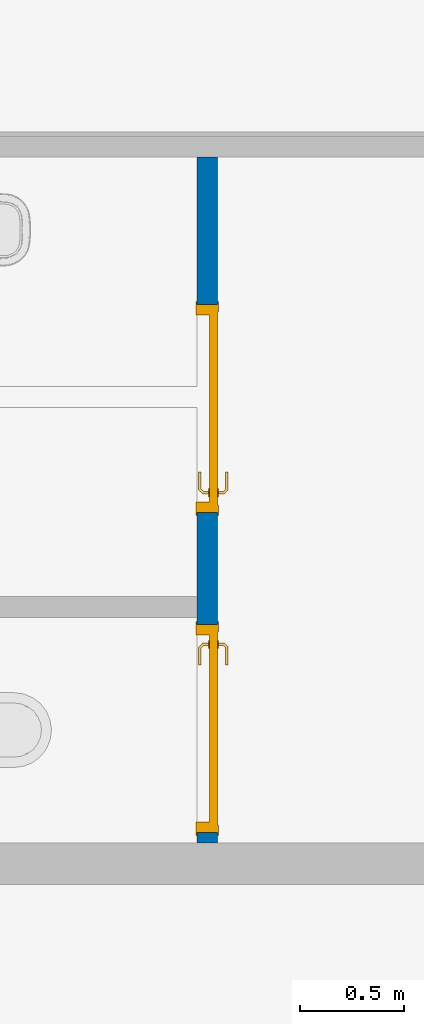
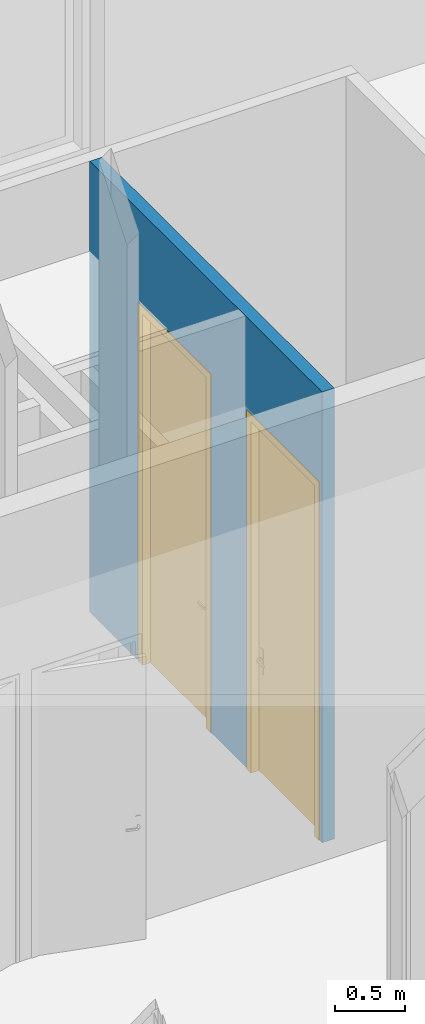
# One storey, part 170 of 240: 2 doors, 1 wall, 2 openings.
"""IFC2X3 building model written with IfcOpenShell, lengths in centimetres."""

from ifc_helpers import new_model, entity, si_unit, converted_unit, derived_unit, direction, frame, frame_2d, origin, place, context, subcontext, project, spatial, polyline, rectangle, extrude, clip, bounded_halfspace, faceted_brep, source, transform, mapped, material, material_list, layer, layer_set, layer_usage, type_object, type_shapes, element, fill, save


model = new_model("IFC2X3")

# Units and contexts
model_context = context("Model", 3, precision=0.001, world=origin(), true_north=direction((6.12303176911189e-17, 1.0)))
body_context = subcontext(model_context, "Body", "Model", "MODEL_VIEW")
ifc_project = project(units=[si_unit("LENGTHUNIT", "METRE", prefix="CENTI"), si_unit("AREAUNIT", "SQUARE_METRE"), si_unit("VOLUMEUNIT", "CUBIC_METRE"), converted_unit("PLANEANGLEUNIT", "DEGREE", entity("IfcRatioMeasure", 0.0174532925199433), si_unit("PLANEANGLEUNIT", "RADIAN"), dimensions=[0, 0, 0, 0, 0, 0, 0]), si_unit("MASSUNIT", "GRAM", prefix="KILO"), derived_unit("MASSDENSITYUNIT", [(si_unit("MASSUNIT", "GRAM", prefix="KILO"), 1), (si_unit("LENGTHUNIT", "METRE"), -3)]), si_unit("TIMEUNIT", "SECOND"), si_unit("FREQUENCYUNIT", "HERTZ"), si_unit("THERMODYNAMICTEMPERATUREUNIT", "DEGREE_CELSIUS"), derived_unit("THERMALTRANSMITTANCEUNIT", [(si_unit("MASSUNIT", "GRAM", prefix="KILO"), 1), (si_unit("THERMODYNAMICTEMPERATUREUNIT", "KELVIN"), -1), (si_unit("TIMEUNIT", "SECOND"), -3)]), derived_unit("VOLUMETRICFLOWRATEUNIT", [(si_unit("LENGTHUNIT", "METRE"), 3), (si_unit("TIMEUNIT", "SECOND"), -1)]), si_unit("ELECTRICCURRENTUNIT", "AMPERE"), si_unit("ELECTRICVOLTAGEUNIT", "VOLT"), si_unit("POWERUNIT", "WATT"), si_unit("FORCEUNIT", "NEWTON", prefix="KILO"), si_unit("ILLUMINANCEUNIT", "LUX"), si_unit("LUMINOUSFLUXUNIT", "LUMEN"), si_unit("LUMINOUSINTENSITYUNIT", "CANDELA"), derived_unit("USERDEFINED", [(si_unit("MASSUNIT", "GRAM", prefix="KILO"), -1), (si_unit("LENGTHUNIT", "METRE"), -2), (si_unit("TIMEUNIT", "SECOND"), 3), (si_unit("LUMINOUSFLUXUNIT", "LUMEN"), 1)]), derived_unit("LINEARVELOCITYUNIT", [(si_unit("LENGTHUNIT", "METRE"), 1), (si_unit("TIMEUNIT", "SECOND"), -1)]), si_unit("PRESSUREUNIT", "PASCAL"), derived_unit("USERDEFINED", [(si_unit("LENGTHUNIT", "METRE"), -2), (si_unit("MASSUNIT", "GRAM", prefix="KILO"), 1), (si_unit("TIMEUNIT", "SECOND"), -2)])], contexts=[model_context])

# Site, building, storey
site_placement = place(None, frame((-2781.94577612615, 7442.24238424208, 0.0)))
site = spatial("IfcSite", under=ifc_project, at=site_placement, Name="Default", CompositionType="ELEMENT")
building_placement = place(site_placement, origin())
building = spatial("IfcBuilding", under=site, at=building_placement, CompositionType="ELEMENT")
storey_placement = place(building_placement, origin())
storey = spatial("IfcBuildingStorey", under=building, at=storey_placement, Name="N00 - COO", CompositionType="ELEMENT", Elevation=0.0)

# Wall, openings, doors
ifc_material_1 = material(Name="01 - Enduit/Plâtre")
ifc_layer_1 = layer(ifc_material_1, 1.3)
ifc_material_2 = material(Name="00 - Isolant")
ifc_layer_2 = layer(ifc_material_2, 7.4)
ifc_layer_3 = layer(ifc_material_1, 1.3)
ifc_layer_set = layer_set([ifc_layer_1, ifc_layer_2, ifc_layer_3], Name="Mur de base:06 - cloisons - Ba13 10cm")
ifc_layer_usage = layer_usage(ifc_layer_set, "AXIS2", "POSITIVE", -5.0)
wall_type = type_object("IfcWallType", Name="Mur de base:06 - cloisons - Ba13 10cm", PredefinedType="STANDARD", material=ifc_layer_set)
wall_placement = place(storey_placement, frame((-1804.49988284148, -1580.0, 0.0), z_axis=(0.0, 0.0, 1.0), x_axis=(0.0, -1.0, 0.0)))
wall = element("IfcWallStandardCase", 1, at=wall_placement, inside=storey, type_object=wall_type, material=ifc_layer_usage, Name="Mur de base:06 - cloisons - Ba13 10cm", ObjectType="Mur de base:06 - cloisons - Ba13 10cm", context=body_context, shape_type="Clipping", body=[
    clip(extrude(rectangle(XDim=330.079033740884, YDim=9.99999999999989, at=frame_2d((165.039516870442, -2.57571741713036e-14), x_axis=(-1.0, 0.0))), origin(), (0.0, 0.0, 1.0), 391.0), bounded_halfspace(frame((0.0, -5.0, 391.0), z_axis=(0.0, 0.0, -1.0), x_axis=(-1.0, 0.0, 0.0)), True, frame((0.0, -5.0, 391.0)), polyline([(0.0, 0.0), (211.5, 0.0), (221.5, 0.0), (330.079033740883, 0.0), (330.079033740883, 10.0), (0.0, 10.0), (0.0, 0.0)]))),
])
opening_1_placement = place(wall_placement, frame((225.079033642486, -5.0, 0.0)))
opening_1 = element("IfcOpeningElement", 2, at=opening_1_placement, cuts=wall, Name="Int. Simple:PP (0.93m x 3.06m):1", ObjectType="Opening", context=body_context, shape_type="SweptSolid", body=[
    extrude(rectangle(XDim=309.500000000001, YDim=99.9999999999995, at=frame_2d((154.750000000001, 49.9999999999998), x_axis=(1.0, 0.0))), frame((0.0, 0.0, 0.0), z_axis=(0.0, 1.0, 0.0), x_axis=(0.0, 0.0, 1.0)), (0.0, 0.0, 1.0), 10.0),
])
opening_2_placement = place(wall_placement, frame((71.0, -5.0, 0.0)))
opening_2 = element("IfcOpeningElement", 3, at=opening_2_placement, cuts=wall, Name="Int. Simple:PP (0.93m x 3.06m):1", ObjectType="Opening", context=body_context, shape_type="SweptSolid", body=[
    extrude(rectangle(XDim=309.500000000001, YDim=99.9999999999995, at=frame_2d((154.750000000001, 49.9999999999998), x_axis=(1.0, 0.0))), frame((0.0, 0.0, 0.0), z_axis=(0.0, 1.0, 0.0), x_axis=(0.0, 0.0, 1.0)), (0.0, 0.0, 1.0), 10.0),
])
ifc_material_3 = material(Name="Finition Peinture - Blanc satiné")
ifc_material_4 = material(Name="Bois - Panneau de porte")
ifc_material_5 = material(Name="Bois - Cadre de porte")
ifc_material_list_1 = material_list([ifc_material_3, ifc_material_4, ifc_material_5])
ifc_material_list_2 = material_list([ifc_material_3, ifc_material_4, ifc_material_5])
door_style_1 = type_object("IfcDoorStyle", Name="PP (0.93m x 3.06m)", ConstructionType="NOTDEFINED", OperationType="SINGLE_SWING_LEFT", ParameterTakesPrecedence=False, Sizeable=False, material=ifc_material_list_2)
shared_shape_1 = source(origin(), body_context, "Body", "Brep", [
    faceted_brep([(10.5352761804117, -0.500000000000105, 86.6003983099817), (11.5000000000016, -0.500000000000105, 87.0), (11.5000000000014, -0.500000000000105, 108.0), (10.5352761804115, -0.500000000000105, 108.399601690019), (9.50000000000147, -0.500000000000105, 108.535898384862), (8.46472381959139, -0.500000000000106, 108.399601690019), (7.50000000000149, -0.500000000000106, 108.0), (7.50000000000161, -0.500000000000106, 87.0), (8.46472381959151, -0.500000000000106, 86.6003983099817), (9.50000000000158, -0.500000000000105, 86.464101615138), (10.5352761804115, 0.0, 108.399601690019), (11.5000000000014, 0.0, 108.0), (11.5000000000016, 0.0, 87.0), (10.5352761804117, 0.0, 86.6003983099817), (9.50000000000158, 0.0, 86.464101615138), (8.46472381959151, 0.0, 86.6003983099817), (7.50000000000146, 0.0, 87.0), (7.50000000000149, 0.0, 108.0), (8.46472381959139, 0.0, 108.399601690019), (9.50000000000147, 0.0, 108.535898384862)], [[[0, 1, 2, 3, 4, 5, 6, 7, 8, 9]], [[10, 11, 12, 13, 14, 15, 16, 17, 18, 19]], [[16, 15, 8, 7]], [[8, 15, 14, 9]], [[14, 13, 0, 9]], [[13, 12, 1, 0]], [[2, 1, 12, 11]], [[11, 10, 3, 2]], [[3, 10, 19, 4]], [[19, 18, 5, 4]], [[18, 17, 6, 5]], [[7, 6, 17, 16]]]),
    faceted_brep([(10.5352761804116, 4.0, 86.6003983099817), (11.5000000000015, 4.0, 87.0), (11.5000000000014, 4.0, 108.0), (10.5352761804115, 4.0, 108.399601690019), (9.50000000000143, 4.0, 108.535898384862), (8.46472381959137, 4.0, 108.399601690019), (7.50000000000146, 4.0, 108.0), (7.50000000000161, 4.0, 87.0), (8.46472381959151, 4.0, 86.6003983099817), (9.50000000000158, 4.0, 86.464101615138), (10.5352761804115, 4.49999999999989, 108.399601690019), (11.5000000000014, 4.49999999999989, 108.0), (11.5000000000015, 4.49999999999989, 87.0), (10.5352761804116, 4.49999999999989, 86.6003983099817), (9.50000000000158, 4.49999999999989, 86.464101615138), (8.46472381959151, 4.49999999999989, 86.6003983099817), (7.50000000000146, 4.49999999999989, 87.0), (7.50000000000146, 4.49999999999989, 108.0), (8.46472381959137, 4.49999999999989, 108.399601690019), (9.50000000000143, 4.49999999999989, 108.535898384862)], [[[0, 1, 2, 3, 4, 5, 6, 7, 8, 9]], [[10, 11, 12, 13, 14, 15, 16, 17, 18, 19]], [[11, 10, 3, 2]], [[3, 10, 19, 4]], [[19, 18, 5, 4]], [[18, 17, 6, 5]], [[7, 6, 17, 16]], [[16, 15, 8, 7]], [[8, 15, 14, 9]], [[14, 13, 0, 9]], [[13, 12, 1, 0]], [[2, 1, 12, 11]]]),
    faceted_brep([(9.29747013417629, -0.500000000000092, 100.778044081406), (9.70252986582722, -0.50000000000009, 100.778044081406), (10.1000000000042, -0.500000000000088, 100.699999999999), (10.1000000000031, -0.500000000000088, 99.3000000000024), (9.7025298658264, -0.50000000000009, 99.2219559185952), (9.29747013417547, -0.500000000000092, 99.221955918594), (8.8999999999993, -0.500000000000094, 99.2999999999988), (8.89999999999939, -0.500000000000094, 100.7), (8.89999999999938, -3.26509507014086, 100.7), (9.29747013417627, -3.10045754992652, 100.778044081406), (10.9023585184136, -4.70534593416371, 100.778044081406), (11.0701397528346, -4.30028620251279, 100.778044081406), (9.7025298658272, -2.93267631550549, 100.778044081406), (10.1000000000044, -2.76803879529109, 100.7), (10.1000000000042, -2.76803879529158, 99.3000000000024), (9.7025298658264, -2.93267631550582, 99.2219559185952), (11.0701397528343, -4.30028620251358, 99.2219559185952), (10.9023585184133, -4.70534593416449, 99.221955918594), (9.29747013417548, -3.10045754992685, 99.221955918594), (8.89999999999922, -3.26509507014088, 99.2999999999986), (10.7377209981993, -5.10281606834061, 100.7), (11.2347772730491, -3.90281606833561, 100.7), (11.2347772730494, -3.90281606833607, 99.3000000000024), (10.7377209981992, -5.10281606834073, 99.2999999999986), (19.5018640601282, -5.10281606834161, 99.2999999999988), (19.5018640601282, -4.70534593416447, 99.221955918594), (19.5018640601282, -4.30028620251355, 99.2219559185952), (19.5018640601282, -3.9028160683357, 99.3000000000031), (19.5018640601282, -3.90281606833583, 100.7), (19.5018640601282, -4.30028620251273, 100.778044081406), (19.5018640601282, -4.70534593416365, 100.778044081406), (19.5018640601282, -5.10281606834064, 100.699999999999), (14.7307697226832, -5.10281606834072, 100.7), (15.2860019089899, -4.5028160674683, 100.78786867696), (15.3683206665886, -3.9028160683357, 100.7), (15.3683206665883, -3.9028160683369, 99.3000000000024), (15.2860018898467, -4.50281607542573, 99.2121313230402), (14.7307700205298, -5.10281606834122, 99.2999999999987)], [[[0, 1, 2, 3, 4, 5, 6, 7]], [[8, 9, 0, 7]], [[9, 10, 11, 12, 1, 0]], [[12, 13, 2, 1]], [[3, 2, 13, 14]], [[14, 15, 4, 3]], [[15, 16, 17, 18, 5, 4]], [[18, 19, 6, 5]], [[7, 6, 19, 8]], [[20, 10, 9, 8]], [[11, 21, 13, 12]], [[14, 13, 21, 22]], [[22, 16, 15, 14]], [[17, 23, 19, 18]], [[8, 19, 23, 20]], [[24, 25, 26, 27, 28, 29, 30, 31]], [[32, 30, 33]], [[31, 30, 32]], [[10, 20, 32]], [[33, 34, 11]], [[21, 11, 34]], [[34, 29, 28]], [[30, 29, 33]], [[29, 34, 33]], [[10, 32, 33]], [[10, 33, 11]], [[22, 21, 34, 28, 27, 35]], [[35, 26, 36]], [[37, 36, 25]], [[22, 35, 16]], [[35, 27, 26]], [[24, 37, 25]], [[23, 17, 37]], [[37, 17, 36]], [[17, 16, 36]], [[16, 35, 36]], [[25, 36, 26]], [[20, 23, 37, 24, 31, 32]]]),
    faceted_brep([(9.29747013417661, 4.49999999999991, 100.778044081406), (8.89999999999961, 4.4999999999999, 100.7), (8.89999999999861, 4.4999999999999, 99.2999999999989), (9.29747013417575, 4.49999999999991, 99.221955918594), (9.70252986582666, 4.49999999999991, 99.2219559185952), (10.1000000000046, 4.49999999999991, 99.3000000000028), (10.1000000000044, 4.49999999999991, 100.7), (9.70252986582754, 4.49999999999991, 100.778044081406), (10.1000000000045, 6.7485204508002, 99.3000000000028), (10.1000000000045, 6.74852045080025, 100.7), (9.70252986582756, 6.91315797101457, 100.778044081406), (11.083890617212, 8.29451872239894, 100.778044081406), (10.916109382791, 8.69957845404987, 100.778044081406), (9.29747013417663, 7.0809392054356, 100.778044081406), (8.89999999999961, 7.24557672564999, 100.7), (8.89999999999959, 7.2455767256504, 99.2999999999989), (9.29747013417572, 7.08093920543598, 99.221955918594), (10.9161093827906, 8.69957845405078, 99.221955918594), (11.0838906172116, 8.29451872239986, 99.2219559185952), (9.70252986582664, 6.91315797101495, 99.2219559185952), (11.2485281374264, 7.89704858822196, 99.3000000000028), (11.2485281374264, 7.89704858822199, 100.7), (10.7514718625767, 9.09704858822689, 100.7), (10.7514718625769, 9.0970485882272, 99.2999999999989), (19.5045783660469, 7.89704858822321, 99.3000000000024), (19.5045783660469, 8.29451872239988, 99.2219559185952), (19.5045783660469, 8.6995784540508, 99.221955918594), (19.5045783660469, 9.09704858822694, 99.2999999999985), (19.5045783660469, 9.09704858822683, 100.7), (19.5045783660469, 8.69957845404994, 100.778044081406), (19.5045783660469, 8.29451872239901, 100.778044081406), (19.5045783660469, 7.89704858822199, 100.7), (15.3765520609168, 7.89704858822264, 99.3000000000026), (15.3765532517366, 7.89704858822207, 100.7), (15.294234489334, 8.49704858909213, 100.78786867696), (14.7445205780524, 9.09704858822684, 100.7), (14.7445204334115, 9.09704858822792, 99.2999999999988), (15.2942345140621, 8.49704858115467, 99.2121313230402)], [[[0, 1, 2, 3, 4, 5, 6, 7]], [[6, 5, 8, 9]], [[9, 10, 7, 6]], [[10, 11, 12, 13, 0, 7]], [[13, 14, 1, 0]], [[2, 1, 14, 15]], [[15, 16, 3, 2]], [[16, 17, 18, 19, 4, 3]], [[19, 8, 5, 4]], [[9, 8, 20, 21]], [[21, 11, 10, 9]], [[12, 22, 14, 13]], [[15, 14, 22, 23]], [[23, 17, 16, 15]], [[18, 20, 8, 19]], [[24, 25, 26, 27, 28, 29, 30, 31]], [[21, 20, 32, 24, 31, 33]], [[33, 30, 34]], [[35, 34, 29]], [[21, 33, 11]], [[33, 31, 30]], [[28, 35, 29]], [[22, 12, 35]], [[35, 12, 34]], [[12, 11, 34]], [[11, 33, 34]], [[29, 34, 30]], [[22, 35, 28, 27, 36, 23]], [[36, 26, 37]], [[27, 26, 36]], [[17, 23, 36]], [[37, 32, 18]], [[20, 18, 32]], [[32, 25, 24]], [[26, 25, 37]], [[25, 32, 37]], [[17, 36, 37]], [[17, 37, 18]]]),
    faceted_brep([(3.50000000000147, 4.0, 306.0), (96.5000000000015, 4.0, 306.0), (96.5000000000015, 4.0, 0.0), (3.50000000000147, 4.0, 0.0), (3.50000000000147, 0.0, 306.0), (3.50000000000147, 0.0, 0.0), (96.5000000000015, 0.0, 0.0), (96.5000000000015, 0.0, 306.0)], [[[0, 1, 2, 3]], [[4, 5, 6, 7]], [[1, 0, 4, 7]], [[2, 1, 7, 6]], [[3, 2, 6, 5]], [[0, 3, 5, 4]]]),
    faceted_brep([(0.0, 10.0, 0.0), (-1.50000000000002, 10.0, 0.0), (-1.50000000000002, 10.5000000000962, 0.0), (5.0, 10.5000000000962, 0.0), (5.0, 4.0, 0.0), (3.50000000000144, 4.0, 0.0), (3.50000000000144, -0.500000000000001, 0.0), (-1.50000000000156, -0.500000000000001, 0.0), (-1.50000000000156, 0.0, 0.0), (0.0, 0.0, 0.0), (0.0, 10.0, 309.500000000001), (100.0, 10.0, 309.500000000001), (100.0, 10.0, 0.0), (101.5, 10.0, 0.0), (101.5, 10.0, 311.0), (-1.50000000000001, 10.0, 311.0), (-1.50000000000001, 10.5000000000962, 311.0), (101.5, 10.5000000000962, 311.0), (101.5, 10.5000000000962, 0.0), (95.0, 10.5000000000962, 0.0), (95.0, 10.5000000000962, 304.5), (5.0, 10.5000000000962, 304.5), (5.0, 4.0, 304.5), (95.0, 4.0, 304.5), (95.0, 4.0, 0.0), (96.4999999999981, 4.0, 0.0), (96.4999999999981, 4.0, 306.0), (3.50000000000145, 4.0, 306.0), (3.50000000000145, -0.500000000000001, 306.0), (96.4999999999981, -0.500000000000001, 306.0), (96.4999999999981, -0.500000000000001, 0.0), (101.500000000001, -0.500000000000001, 0.0), (101.500000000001, -0.500000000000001, 311.0), (-1.50000000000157, -0.500000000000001, 311.0), (-1.50000000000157, 0.0, 311.0), (101.500000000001, 0.0, 311.0), (101.500000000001, 0.0, 0.0), (100.0, 0.0, 0.0), (100.0, 0.0, 309.500000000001), (0.0, 0.0, 309.500000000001)], [[[0, 1, 2, 3, 4, 5, 6, 7, 8, 9]], [[1, 0, 10, 11, 12, 13, 14, 15]], [[2, 1, 15, 16]], [[3, 2, 16, 17, 18, 19, 20, 21]], [[3, 21, 22, 4]], [[5, 4, 22, 23, 24, 25, 26, 27]], [[5, 27, 28, 6]], [[7, 6, 28, 29, 30, 31, 32, 33]], [[8, 7, 33, 34]], [[9, 8, 34, 35, 36, 37, 38, 39]], [[0, 9, 39, 10]], [[11, 38, 37, 12]], [[12, 37, 36, 31, 30, 25, 24, 19, 18, 13]], [[17, 14, 13, 18]], [[23, 20, 19, 24]], [[29, 26, 25, 30]], [[35, 32, 31, 36]], [[16, 15, 14, 17]], [[22, 21, 20, 23]], [[28, 27, 26, 29]], [[34, 33, 32, 35]], [[10, 39, 38, 11]]]),
])
type_shapes(door_style_1, [shared_shape_1])
door_1_placement = place(opening_2_placement, frame((100.0, 10.0, 0.0), z_axis=(0.0, 0.0, 1.0), x_axis=(-1.0, 0.0, 0.0)))
door_1 = element("IfcDoor", 4, at=door_1_placement, inside=storey, type_object=door_style_1, material=ifc_material_list_1, Name="Int. Simple:PP (0.93m x 3.06m)", ObjectType="Int. Simple:PP (0.93m x 3.06m)", OverallHeight=309.500000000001, OverallWidth=99.9999999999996, context=body_context, shape_type="MappedRepresentation", body=[
    mapped(shared_shape_1, transform((0.0, 0.0, 0.0), scale=1.0)),
])
fill(opening_2, door_1)
ifc_material_list_3 = material_list([ifc_material_3, ifc_material_4, ifc_material_5])
ifc_material_list_4 = material_list([ifc_material_3, ifc_material_4, ifc_material_5])
door_style_2 = type_object("IfcDoorStyle", Name="PP (0.93m x 3.06m)", ConstructionType="NOTDEFINED", OperationType="SINGLE_SWING_RIGHT", ParameterTakesPrecedence=False, Sizeable=False, material=ifc_material_list_4)
shared_shape_2 = source(origin(), body_context, "Body", "Brep", [
    faceted_brep([(99.5000000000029, -0.500000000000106, 87.0), (99.5000000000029, -0.500000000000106, 108.0), (98.535276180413, -0.500000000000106, 108.399601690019), (97.5000000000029, -0.500000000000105, 108.535898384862), (96.4647238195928, -0.500000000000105, 108.399601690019), (95.500000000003, -0.500000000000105, 108.0), (95.5000000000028, -0.500000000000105, 87.0), (96.4647238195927, -0.500000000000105, 86.6003983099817), (97.5000000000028, -0.500000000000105, 86.464101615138), (98.5352761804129, -0.500000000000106, 86.6003983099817), (99.5000000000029, 0.0, 108.0), (99.5000000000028, 0.0, 87.0), (98.5352761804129, 0.0, 86.6003983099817), (97.5000000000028, 0.0, 86.464101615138), (96.4647238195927, 0.0, 86.6003983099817), (95.5000000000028, 0.0, 87.0), (95.5000000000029, 0.0, 108.0), (96.4647238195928, 0.0, 108.399601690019), (97.5000000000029, 0.0, 108.535898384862), (98.535276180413, 0.0, 108.399601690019)], [[[0, 1, 2, 3, 4, 5, 6, 7, 8, 9]], [[10, 11, 12, 13, 14, 15, 16, 17, 18, 19]], [[9, 12, 11, 0]], [[8, 13, 12, 9]], [[7, 14, 13, 8]], [[7, 6, 15, 14]], [[15, 6, 5, 16]], [[4, 17, 16, 5]], [[3, 18, 17, 4]], [[2, 19, 18, 3]], [[2, 1, 10, 19]], [[11, 10, 1, 0]]]),
    faceted_brep([(99.5000000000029, 4.0, 87.0), (99.5000000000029, 4.0, 108.0), (98.535276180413, 4.0, 108.399601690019), (97.5000000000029, 4.0, 108.535898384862), (96.4647238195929, 4.0, 108.399601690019), (95.500000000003, 4.0, 108.0), (95.5000000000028, 4.0, 87.0), (96.4647238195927, 4.0, 86.6003983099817), (97.5000000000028, 4.0, 86.464101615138), (98.5352761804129, 4.0, 86.6003983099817), (97.5000000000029, 4.49999999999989, 108.535898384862), (98.535276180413, 4.49999999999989, 108.399601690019), (99.5000000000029, 4.49999999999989, 108.0), (99.5000000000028, 4.49999999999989, 87.0), (98.5352761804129, 4.49999999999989, 86.6003983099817), (97.5000000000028, 4.49999999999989, 86.464101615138), (96.4647238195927, 4.49999999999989, 86.6003983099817), (95.5000000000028, 4.49999999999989, 87.0), (95.500000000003, 4.49999999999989, 108.0), (96.4647238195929, 4.49999999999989, 108.399601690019)], [[[0, 1, 2, 3, 4, 5, 6, 7, 8, 9]], [[10, 11, 12, 13, 14, 15, 16, 17, 18, 19]], [[4, 19, 18, 5]], [[3, 10, 19, 4]], [[2, 11, 10, 3]], [[2, 1, 12, 11]], [[13, 12, 1, 0]], [[9, 14, 13, 0]], [[8, 15, 14, 9]], [[7, 16, 15, 8]], [[7, 6, 17, 16]], [[17, 6, 5, 18]]]),
    faceted_brep([(97.2974701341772, -0.50000000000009, 100.778044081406), (97.7025298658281, -0.500000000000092, 100.778044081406), (98.1000000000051, -0.500000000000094, 100.699999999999), (98.100000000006, -0.500000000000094, 99.2999999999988), (97.7025298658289, -0.500000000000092, 99.221955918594), (97.297470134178, -0.50000000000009, 99.2219559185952), (96.9000000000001, -0.500000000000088, 99.3000000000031), (96.9000000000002, -0.500000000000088, 100.7), (97.7025298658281, -3.10045754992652, 100.778044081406), (98.1000000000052, -3.26509507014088, 100.7), (97.2974701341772, -2.93267631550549, 100.778044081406), (95.9298602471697, -4.30028620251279, 100.778044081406), (96.0976414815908, -4.70534593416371, 100.778044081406), (96.9000000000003, -2.76803879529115, 100.7), (96.9000000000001, -2.76803879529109, 99.3000000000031), (97.297470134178, -2.93267631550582, 99.2219559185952), (97.7025298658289, -3.10045754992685, 99.221955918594), (96.0976414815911, -4.70534593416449, 99.221955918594), (95.9298602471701, -4.30028620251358, 99.2219559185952), (98.100000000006, -3.26509507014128, 99.2999999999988), (96.2622790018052, -5.10281606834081, 100.7), (95.7652227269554, -3.90281606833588, 100.7), (95.7652227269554, -3.90281606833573, 99.3000000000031), (96.2622790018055, -5.10281606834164, 99.2999999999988), (87.4981359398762, -5.10281606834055, 100.7), (87.4981359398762, -4.70534593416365, 100.778044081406), (87.4981359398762, -4.30028620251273, 100.778044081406), (87.4981359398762, -3.90281606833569, 100.699999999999), (87.4981359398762, -3.90281606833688, 99.3000000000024), (87.4981359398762, -4.30028620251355, 99.2219559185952), (87.4981359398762, -4.70534593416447, 99.221955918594), (87.4981359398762, -5.10281606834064, 99.2999999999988), (91.7139980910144, -4.5028160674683, 100.78786867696), (92.2692302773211, -5.1028160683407, 100.7), (91.6316793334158, -3.9028160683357, 100.7), (91.631679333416, -3.9028160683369, 99.3000000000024), (91.7139981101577, -4.50281607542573, 99.2121313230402), (92.2692310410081, -5.10281606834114, 99.2999999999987)], [[[0, 1, 2, 3, 4, 5, 6, 7]], [[2, 1, 8, 9]], [[1, 0, 10, 11, 12, 8]], [[0, 7, 13, 10]], [[14, 13, 7, 6]], [[5, 15, 14, 6]], [[5, 4, 16, 17, 18, 15]], [[3, 19, 16, 4]], [[9, 19, 3, 2]], [[9, 8, 12, 20]], [[10, 13, 21, 11]], [[22, 21, 13, 14]], [[14, 15, 18, 22]], [[16, 19, 23, 17]], [[20, 23, 19, 9]], [[24, 25, 26, 27, 28, 29, 30, 31]], [[32, 25, 33]], [[33, 25, 24]], [[33, 20, 12]], [[11, 34, 32]], [[34, 11, 21]], [[27, 26, 34]], [[32, 26, 25]], [[32, 34, 26]], [[32, 33, 12]], [[11, 32, 12]], [[21, 22, 35, 28, 27, 34]], [[36, 29, 35]], [[30, 36, 37]], [[18, 35, 22]], [[29, 28, 35]], [[30, 37, 31]], [[37, 17, 23]], [[36, 17, 37]], [[36, 18, 17]], [[36, 35, 18]], [[29, 36, 30]], [[23, 20, 33, 24, 31, 37]]]),
    faceted_brep([(97.2974701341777, 4.49999999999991, 99.2219559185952), (97.7025298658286, 4.49999999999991, 99.221955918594), (98.1000000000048, 4.4999999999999, 99.2999999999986), (98.1000000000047, 4.4999999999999, 100.7), (97.7025298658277, 4.49999999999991, 100.778044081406), (97.2974701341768, 4.49999999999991, 100.778044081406), (96.8999999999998, 4.49999999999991, 100.7), (96.900000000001, 4.49999999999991, 99.3000000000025), (96.8999999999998, 6.7485204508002, 100.7), (96.8999999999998, 6.74852045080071, 99.3000000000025), (97.2974701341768, 6.91315797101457, 100.778044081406), (97.7025298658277, 7.0809392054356, 100.778044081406), (96.0838906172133, 8.69957845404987, 100.778044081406), (95.9161093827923, 8.29451872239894, 100.778044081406), (98.1000000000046, 7.24557672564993, 100.7), (98.1000000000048, 7.24557672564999, 99.2999999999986), (97.7025298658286, 7.08093920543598, 99.221955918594), (97.2974701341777, 6.91315797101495, 99.2219559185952), (95.9161093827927, 8.29451872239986, 99.2219559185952), (96.0838906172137, 8.69957845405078, 99.221955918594), (95.751471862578, 7.89704858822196, 100.7), (95.7514718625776, 7.89704858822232, 99.3000000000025), (96.2485281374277, 9.09704858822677, 100.7), (96.2485281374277, 9.09704858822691, 99.2999999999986), (87.4954216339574, 8.29451872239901, 100.778044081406), (87.4954216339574, 8.69957845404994, 100.778044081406), (87.4954216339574, 9.09704858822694, 100.7), (87.4954216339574, 9.09704858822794, 99.2999999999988), (87.4954216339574, 8.6995784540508, 99.221955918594), (87.4954216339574, 8.29451872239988, 99.2219559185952), (87.4954216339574, 7.89704858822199, 99.3000000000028), (87.4954216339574, 7.89704858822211, 100.7), (91.6234467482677, 7.89704858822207, 100.7), (91.6234479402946, 7.89704858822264, 99.3000000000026), (91.7057655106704, 8.49704858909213, 100.78786867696), (92.255479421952, 9.09704858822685, 100.7), (92.2554795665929, 9.09704858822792, 99.2999999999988), (91.7057654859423, 8.49704858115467, 99.2121313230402)], [[[0, 1, 2, 3, 4, 5, 6, 7]], [[8, 9, 7, 6]], [[5, 10, 8, 6]], [[5, 4, 11, 12, 13, 10]], [[3, 14, 11, 4]], [[14, 3, 2, 15]], [[2, 1, 16, 15]], [[1, 0, 17, 18, 19, 16]], [[0, 7, 9, 17]], [[20, 21, 9, 8]], [[8, 10, 13, 20]], [[14, 22, 12, 11]], [[23, 22, 14, 15]], [[15, 16, 19, 23]], [[17, 9, 21, 18]], [[24, 25, 26, 27, 28, 29, 30, 31]], [[21, 20, 32, 31, 30, 33]], [[34, 24, 32]], [[25, 34, 35]], [[13, 32, 20]], [[24, 31, 32]], [[25, 35, 26]], [[35, 12, 22]], [[34, 12, 35]], [[34, 13, 12]], [[34, 32, 13]], [[24, 34, 25]], [[22, 23, 36, 27, 26, 35]], [[37, 28, 36]], [[36, 28, 27]], [[36, 23, 19]], [[18, 33, 37]], [[33, 18, 21]], [[30, 29, 33]], [[37, 29, 28]], [[37, 33, 29]], [[37, 36, 19]], [[18, 37, 19]]]),
    faceted_brep([(103.500000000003, 4.0, 306.0), (103.500000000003, 4.0, 0.0), (10.5000000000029, 4.0, 0.0), (10.5000000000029, 4.0, 306.0), (103.500000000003, 0.0, 306.0), (10.5000000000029, 0.0, 306.0), (10.5000000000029, 0.0, 0.0), (103.500000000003, 0.0, 0.0)], [[[0, 1, 2, 3]], [[4, 5, 6, 7]], [[3, 5, 4, 0]], [[2, 6, 5, 3]], [[1, 7, 6, 2]], [[0, 4, 7, 1]]]),
    faceted_brep([(107.0, 10.0, 0.0), (107.0, 0.0, 0.0), (108.500000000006, 0.0, 0.0), (108.500000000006, -0.500000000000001, 0.0), (103.500000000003, -0.500000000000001, 0.0), (103.500000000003, 4.0, 0.0), (102.0, 4.0, 0.0), (102.0, 10.5000000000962, 0.0), (108.500000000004, 10.5000000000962, 0.0), (108.500000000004, 10.0, 0.0), (108.500000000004, 10.0, 311.0), (5.50000000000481, 10.0, 311.0), (5.50000000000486, 10.0, 0.0), (7.0, 10.0, 0.0), (7.0, 10.0, 309.500000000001), (107.0, 10.0, 309.500000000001), (108.500000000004, 10.5000000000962, 311.0), (102.0, 10.5000000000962, 304.5), (12.0, 10.5000000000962, 304.5), (12.0, 10.5000000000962, 0.0), (5.50000000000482, 10.5000000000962, 0.0), (5.50000000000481, 10.5000000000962, 311.0), (102.0, 4.0, 304.5), (103.500000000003, 4.0, 306.0), (10.5000000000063, 4.0, 306.0), (10.5000000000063, 4.0, 0.0), (12.0, 4.0, 0.0), (12.0, 4.0, 304.5), (103.500000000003, -0.500000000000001, 306.0), (108.500000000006, -0.500000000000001, 311.0), (5.5000000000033, -0.500000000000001, 311.0), (5.50000000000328, -0.500000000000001, 0.0), (10.5000000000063, -0.500000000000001, 0.0), (10.5000000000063, -0.500000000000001, 306.0), (108.500000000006, 0.0, 311.0), (107.0, 0.0, 309.500000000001), (7.0, 0.0, 309.500000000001), (7.0, 0.0, 0.0), (5.5000000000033, 0.0, 0.0), (5.50000000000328, 0.0, 311.0)], [[[0, 1, 2, 3, 4, 5, 6, 7, 8, 9]], [[9, 10, 11, 12, 13, 14, 15, 0]], [[8, 16, 10, 9]], [[7, 17, 18, 19, 20, 21, 16, 8]], [[7, 6, 22, 17]], [[5, 23, 24, 25, 26, 27, 22, 6]], [[5, 4, 28, 23]], [[3, 29, 30, 31, 32, 33, 28, 4]], [[2, 34, 29, 3]], [[1, 35, 36, 37, 38, 39, 34, 2]], [[0, 15, 35, 1]], [[14, 13, 37, 36]], [[13, 12, 20, 19, 26, 25, 32, 31, 38, 37]], [[21, 20, 12, 11]], [[27, 26, 19, 18]], [[33, 32, 25, 24]], [[39, 38, 31, 30]], [[16, 21, 11, 10]], [[22, 27, 18, 17]], [[28, 33, 24, 23]], [[34, 39, 30, 29]], [[15, 14, 36, 35]]]),
])
type_shapes(door_style_2, [shared_shape_2])
door_2_placement = place(opening_1_placement, frame((107.0, 10.0, 0.0), z_axis=(0.0, 0.0, 1.0), x_axis=(-1.0, 0.0, 0.0)))
door_2 = element("IfcDoor", 5, at=door_2_placement, inside=storey, type_object=door_style_2, material=ifc_material_list_3, Name="Int. Simple:PP (0.93m x 3.06m)", ObjectType="Int. Simple:PP (0.93m x 3.06m)", OverallHeight=309.500000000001, OverallWidth=99.9999999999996, context=body_context, shape_type="MappedRepresentation", body=[
    mapped(shared_shape_2, transform((0.0, 0.0, 0.0), scale=1.0)),
])
fill(opening_1, door_2)

save(model, "model.ifc")
